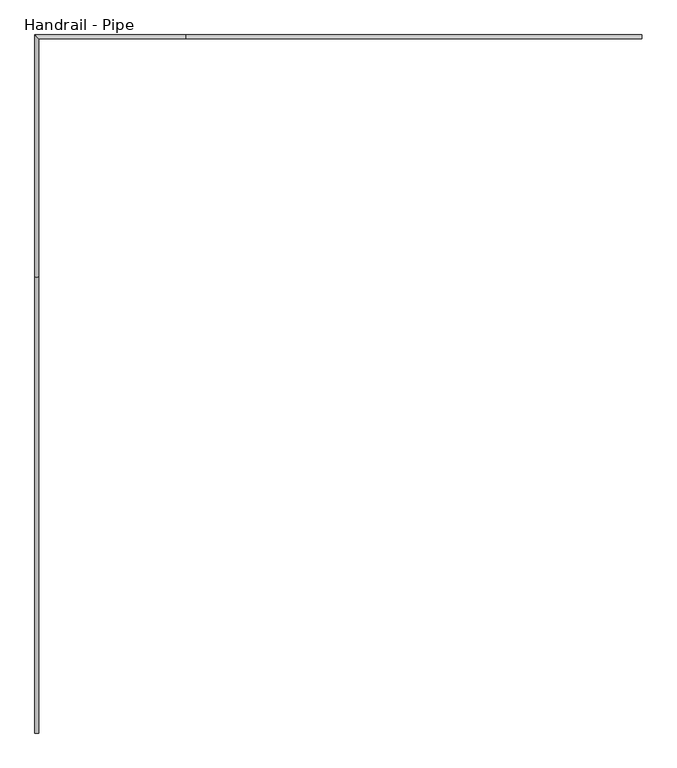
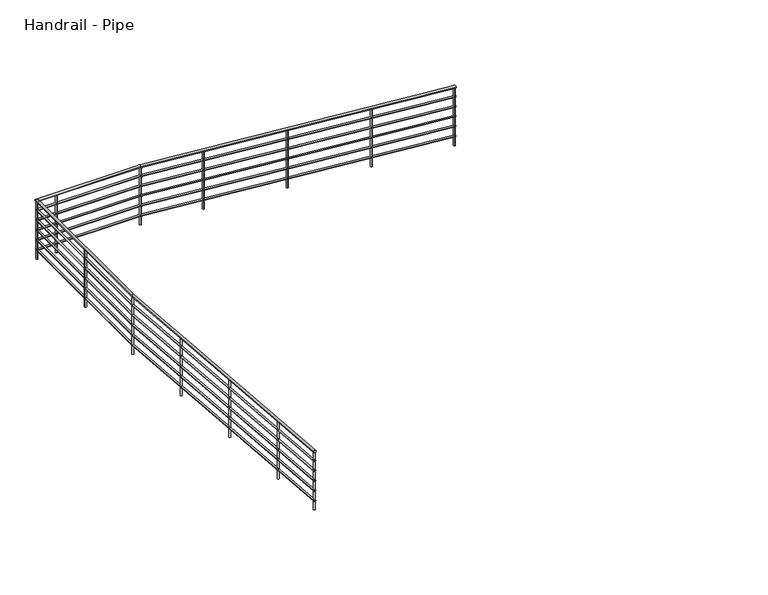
"""IFC4 building model written with IfcOpenShell, lengths in millimetres: railing geometry, Handrail - Pipe."""

from ifc_helpers import new_model, si_unit, point, frame, frame_2d, origin, place, context, project, spatial, circle_curve, ellipse_curve, trimmed, segment, composite_curve, outline, extrude, source, transform, mapped, element, save
from ifc_brep_helpers import plane_surface, cylinder_surface, advanced_brep


def handrail_pipe_67e9e0a0(model_context):
    return source(origin(), model_context, "Body", "SolidModel", [
        advanced_brep(
        [(17900.9421922, 24748.7984382, 133.2839686), (17900.9421922, 24710.6984382, 133.2839686), (13328.1498155, 24710.6984382, 514.35), (13328.1498155, 24748.7984382, 514.35), (11849.3921922, 24710.6984382, 514.35), (11811.2921922, 24748.7984382, 514.35), (11849.3921922, 22320.8938342, 514.35), (11811.2921922, 22320.8938342, 514.35), (11811.2921922, 17749.6862109, 895.2839686), (11849.3921922, 17749.6862109, 895.2839686)],
        [
            (0, 1, ellipse_curve(frame((17900.9421922, 24729.7484382, 133.2839686), z_axis=(1.0, 0.0, 0.0), x_axis=(0.0, 0.0, -1.0)), 19.1160314, 19.05)),
            (1, 0, ellipse_curve(frame((17900.9421922, 24729.7484382, 133.2839686), z_axis=(1.0, 0.0, 0.0), x_axis=(0.0, 0.0, -1.0)), 19.1160314, 19.05)),
            (1, 2),
            (2, 3, ellipse_curve(frame((13328.1498155, 24729.7484382, 514.35), z_axis=(0.9991360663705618, 0.0, -0.041558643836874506), x_axis=(-0.04155864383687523, 0.0, -0.9991360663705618)), 19.0664722, 19.05)),
            (3, 0),
            (3, 2, ellipse_curve(frame((13328.1498155, 24729.7484382, 514.35), z_axis=(0.9991360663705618, 0.0, -0.041558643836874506), x_axis=(-0.04155864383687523, 0.0, -0.9991360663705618)), 19.0664722, 19.05)),
            (2, 4),
            (4, 5, ellipse_curve(frame((11830.3421922, 24729.7484382, 514.35), z_axis=(0.7071067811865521, 0.7071067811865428, 0.0), x_axis=(0.7071067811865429, -0.7071067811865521, 0.0)), 26.9407684, 19.05)),
            (5, 3),
            (5, 4, ellipse_curve(frame((11830.3421922, 24729.7484382, 514.35), z_axis=(0.7071067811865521, 0.7071067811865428, 0.0), x_axis=(0.7071067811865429, -0.7071067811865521, 0.0)), 26.9407684, 19.05)),
            (4, 6),
            (6, 7, ellipse_curve(frame((11830.3421922, 22320.8938342, 514.35), z_axis=(0.0, 0.9991360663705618, -0.04155864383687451), x_axis=(0.0, 0.04155864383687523, 0.9991360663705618)), 19.0664722, 19.05)),
            (7, 5),
            (7, 6, ellipse_curve(frame((11830.3421922, 22320.8938342, 514.35), z_axis=(0.0, 0.9991360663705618, -0.04155864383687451), x_axis=(0.0, 0.04155864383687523, 0.9991360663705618)), 19.0664722, 19.05)),
            (8, 9, ellipse_curve(frame((11830.3421922, 17749.6862109, 895.2839686), z_axis=(0.0, -1.0, 0.0), x_axis=(0.0, 0.0, -1.0)), 19.1160314, 19.05)),
            (9, 8, ellipse_curve(frame((11830.3421922, 17749.6862109, 895.2839686), z_axis=(0.0, -1.0, 0.0), x_axis=(0.0, 0.0, -1.0)), 19.1160314, 19.05)),
            (6, 9),
            (8, 7),
        ],
        [
            plane_surface(frame((17900.9421922, 24729.7484382, 152.4), z_axis=(1.0, 0.0, 0.0), x_axis=(0.0, -1.0, 0.0))),
            cylinder_surface(frame((17899.3601758, 24729.7484382, 133.4158033), z_axis=(0.9965457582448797, 0.0, -0.08304547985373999), x_axis=(0.0, -1.0, 0.0)), 19.05),
            cylinder_surface(frame((13328.9421922, 24729.7484382, 514.35), z_axis=(1.0, 0.0, 0.0), x_axis=(0.0, -1.0, 0.0)), 19.05),
            cylinder_surface(frame((11830.3421922, 24729.7484382, 514.35), z_axis=(0.0, 1.0, 0.0), x_axis=(1.0, 0.0, 0.0)), 19.05),
            plane_surface(frame((11830.3421922, 17749.6862109, 914.4), z_axis=(0.0, -1.0, 0.0), x_axis=(0.0, 0.0, -1.0))),
            cylinder_surface(frame((11830.3421922, 22320.1041945, 514.4158033), z_axis=(0.0, 0.9965457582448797, -0.08304547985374), x_axis=(1.0, 0.0, 0.0)), 19.05),
        ],
        [
            (0, [[1, 2]]),
            (1, [[-2, 3, 4, 5]]),
            (1, [[-1, -5, 6, -3]]),
            (2, [[-4, 7, 8, 9]]),
            (2, [[-6, -9, 10, -7]]),
            (3, [[-8, 11, 12, 13]]),
            (3, [[-10, -13, 14, -11]]),
            (4, [[15, 16]]),
            (5, [[-12, 17, -15, 18]]),
            (5, [[-14, -18, -16, -17]]),
        ],
    ),
        advanced_brep(
        [(17900.9421922, 24742.4484382, -12.7440209), (17900.9421922, 24717.0484382, -12.7440209), (13328.413941, 24717.0484382, 368.3), (13328.413941, 24742.4484382, 368.3), (11843.0421922, 24717.0484382, 368.3), (11817.6421922, 24742.4484382, 368.3), (11843.0421922, 22321.1579598, 368.3), (11817.6421922, 22321.1579598, 368.3), (11817.6421922, 17749.6862109, 749.2559791), (11843.0421922, 17749.6862109, 749.2559791)],
        [
            (0, 1, ellipse_curve(frame((17900.9421922, 24729.7484382, -12.7440209), z_axis=(1.0, 0.0, 0.0), x_axis=(0.0, 0.0, -1.0)), 12.7440209, 12.7)),
            (1, 0, ellipse_curve(frame((17900.9421922, 24729.7484382, -12.7440209), z_axis=(1.0, 0.0, 0.0), x_axis=(0.0, 0.0, -1.0)), 12.7440209, 12.7)),
            (1, 2),
            (2, 3, ellipse_curve(frame((13328.413941, 24729.7484382, 368.3), z_axis=(0.9991360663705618, 0.0, -0.041558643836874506), x_axis=(-0.04155864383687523, 0.0, -0.9991360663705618)), 12.7109814, 12.7)),
            (3, 0),
            (3, 2, ellipse_curve(frame((13328.413941, 24729.7484382, 368.3), z_axis=(0.9991360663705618, 0.0, -0.041558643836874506), x_axis=(-0.04155864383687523, 0.0, -0.9991360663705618)), 12.7109814, 12.7)),
            (2, 4),
            (4, 5, ellipse_curve(frame((11830.3421922, 24729.7484382, 368.3), z_axis=(0.7071067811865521, 0.7071067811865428, 0.0), x_axis=(0.7071067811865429, -0.7071067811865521, 0.0)), 17.9605122, 12.7)),
            (5, 3),
            (5, 4, ellipse_curve(frame((11830.3421922, 24729.7484382, 368.3), z_axis=(0.7071067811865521, 0.7071067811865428, 0.0), x_axis=(0.7071067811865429, -0.7071067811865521, 0.0)), 17.9605122, 12.7)),
            (4, 6),
            (6, 7, ellipse_curve(frame((11830.3421922, 22321.1579598, 368.3), z_axis=(0.0, 0.9991360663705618, -0.04155864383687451), x_axis=(0.0, 0.04155864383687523, 0.9991360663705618)), 12.7109814, 12.7)),
            (7, 5),
            (7, 6, ellipse_curve(frame((11830.3421922, 22321.1579598, 368.3), z_axis=(0.0, 0.9991360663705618, -0.04155864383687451), x_axis=(0.0, 0.04155864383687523, 0.9991360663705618)), 12.7109814, 12.7)),
            (8, 9, ellipse_curve(frame((11830.3421922, 17749.6862109, 749.2559791), z_axis=(0.0, -1.0, 0.0), x_axis=(0.0, 0.0, -1.0)), 12.7440209, 12.7)),
            (9, 8, ellipse_curve(frame((11830.3421922, 17749.6862109, 749.2559791), z_axis=(0.0, -1.0, 0.0), x_axis=(0.0, 0.0, -1.0)), 12.7440209, 12.7)),
            (6, 9),
            (8, 7),
        ],
        [
            plane_surface(frame((17900.9421922, 24729.7484382, 0.0), z_axis=(1.0, 0.0, 0.0), x_axis=(0.0, -1.0, 0.0))),
            cylinder_surface(frame((17899.8875146, 24729.7484382, -12.6561311), z_axis=(0.9965457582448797, 0.0, -0.08304547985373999), x_axis=(0.0, -1.0, 0.0)), 12.7),
            cylinder_surface(frame((13328.9421922, 24729.7484382, 368.3), z_axis=(1.0, 0.0, 0.0), x_axis=(0.0, -1.0, 0.0)), 12.7),
            cylinder_surface(frame((11830.3421922, 24729.7484382, 368.3), z_axis=(0.0, 1.0, 0.0), x_axis=(1.0, 0.0, 0.0)), 12.7),
            plane_surface(frame((11830.3421922, 17749.6862109, 762.0), z_axis=(0.0, -1.0, 0.0), x_axis=(0.0, 0.0, -1.0))),
            cylinder_surface(frame((11830.3421922, 22320.6315333, 368.3438689), z_axis=(0.0, 0.9965457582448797, -0.08304547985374), x_axis=(1.0, 0.0, 0.0)), 12.7),
        ],
        [
            (0, [[1, 2]]),
            (1, [[-2, 3, 4, 5]]),
            (1, [[-1, -5, 6, -3]]),
            (2, [[-4, 7, 8, 9]]),
            (2, [[-6, -9, 10, -7]]),
            (3, [[-8, 11, 12, 13]]),
            (3, [[-10, -13, 14, -11]]),
            (4, [[15, 16]]),
            (5, [[-12, 17, -15, 18]]),
            (5, [[-14, -18, -16, -17]]),
        ],
    ),
        advanced_brep(
        [(17900.9421922, 24742.4484382, -165.1440209), (17900.9421922, 24717.0484382, -165.1440209), (13328.413941, 24717.0484382, 215.9), (13328.413941, 24742.4484382, 215.9), (11843.0421922, 24717.0484382, 215.9), (11817.6421922, 24742.4484382, 215.9), (11843.0421922, 22321.1579598, 215.9), (11817.6421922, 22321.1579598, 215.9), (11817.6421922, 17749.6862109, 596.8559791), (11843.0421922, 17749.6862109, 596.8559791)],
        [
            (0, 1, ellipse_curve(frame((17900.9421922, 24729.7484382, -165.1440209), z_axis=(1.0, 0.0, 0.0), x_axis=(0.0, 0.0, -1.0)), 12.7440209, 12.7)),
            (1, 0, ellipse_curve(frame((17900.9421922, 24729.7484382, -165.1440209), z_axis=(1.0, 0.0, 0.0), x_axis=(0.0, 0.0, -1.0)), 12.7440209, 12.7)),
            (1, 2),
            (2, 3, ellipse_curve(frame((13328.413941, 24729.7484382, 215.9), z_axis=(0.9991360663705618, 0.0, -0.041558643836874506), x_axis=(-0.04155864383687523, 0.0, -0.9991360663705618)), 12.7109814, 12.7)),
            (3, 0),
            (3, 2, ellipse_curve(frame((13328.413941, 24729.7484382, 215.9), z_axis=(0.9991360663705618, 0.0, -0.041558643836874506), x_axis=(-0.04155864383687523, 0.0, -0.9991360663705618)), 12.7109814, 12.7)),
            (2, 4),
            (4, 5, ellipse_curve(frame((11830.3421922, 24729.7484382, 215.9), z_axis=(0.7071067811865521, 0.7071067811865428, 0.0), x_axis=(0.7071067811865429, -0.7071067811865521, 0.0)), 17.9605122, 12.7)),
            (5, 3),
            (5, 4, ellipse_curve(frame((11830.3421922, 24729.7484382, 215.9), z_axis=(0.7071067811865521, 0.7071067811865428, 0.0), x_axis=(0.7071067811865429, -0.7071067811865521, 0.0)), 17.9605122, 12.7)),
            (4, 6),
            (6, 7, ellipse_curve(frame((11830.3421922, 22321.1579598, 215.9), z_axis=(0.0, 0.9991360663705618, -0.04155864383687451), x_axis=(0.0, 0.04155864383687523, 0.9991360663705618)), 12.7109814, 12.7)),
            (7, 5),
            (7, 6, ellipse_curve(frame((11830.3421922, 22321.1579598, 215.9), z_axis=(0.0, 0.9991360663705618, -0.04155864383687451), x_axis=(0.0, 0.04155864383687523, 0.9991360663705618)), 12.7109814, 12.7)),
            (8, 9, ellipse_curve(frame((11830.3421922, 17749.6862109, 596.8559791), z_axis=(0.0, -1.0, 0.0), x_axis=(0.0, 0.0, -1.0)), 12.7440209, 12.7)),
            (9, 8, ellipse_curve(frame((11830.3421922, 17749.6862109, 596.8559791), z_axis=(0.0, -1.0, 0.0), x_axis=(0.0, 0.0, -1.0)), 12.7440209, 12.7)),
            (6, 9),
            (8, 7),
        ],
        [
            plane_surface(frame((17900.9421922, 24729.7484382, -152.4), z_axis=(1.0, 0.0, 0.0), x_axis=(0.0, -1.0, 0.0))),
            cylinder_surface(frame((17899.8875146, 24729.7484382, -165.0561311), z_axis=(0.9965457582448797, 0.0, -0.08304547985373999), x_axis=(0.0, -1.0, 0.0)), 12.7),
            cylinder_surface(frame((13328.9421922, 24729.7484382, 215.9), z_axis=(1.0, 0.0, 0.0), x_axis=(0.0, -1.0, 0.0)), 12.7),
            cylinder_surface(frame((11830.3421922, 24729.7484382, 215.9), z_axis=(0.0, 1.0, 0.0), x_axis=(1.0, 0.0, 0.0)), 12.7),
            plane_surface(frame((11830.3421922, 17749.6862109, 609.6), z_axis=(0.0, -1.0, 0.0), x_axis=(0.0, 0.0, -1.0))),
            cylinder_surface(frame((11830.3421922, 22320.6315333, 215.9438689), z_axis=(0.0, 0.9965457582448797, -0.08304547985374), x_axis=(1.0, 0.0, 0.0)), 12.7),
        ],
        [
            (0, [[1, 2]]),
            (1, [[-2, 3, 4, 5]]),
            (1, [[-1, -5, 6, -3]]),
            (2, [[-4, 7, 8, 9]]),
            (2, [[-6, -9, 10, -7]]),
            (3, [[-8, 11, 12, 13]]),
            (3, [[-10, -13, 14, -11]]),
            (4, [[15, 16]]),
            (5, [[-12, 17, -15, 18]]),
            (5, [[-14, -18, -16, -17]]),
        ],
    ),
        advanced_brep(
        [(17900.9421922, 24742.4484382, -317.5440209), (17900.9421922, 24717.0484382, -317.5440209), (13328.413941, 24717.0484382, 63.5), (13328.413941, 24742.4484382, 63.5), (11843.0421922, 24717.0484382, 63.5), (11817.6421922, 24742.4484382, 63.5), (11843.0421922, 22321.1579598, 63.5), (11817.6421922, 22321.1579598, 63.5), (11817.6421922, 17749.6862109, 444.4559791), (11843.0421922, 17749.6862109, 444.4559791)],
        [
            (0, 1, ellipse_curve(frame((17900.9421922, 24729.7484382, -317.5440209), z_axis=(1.0, 0.0, 0.0), x_axis=(0.0, 0.0, -1.0)), 12.7440209, 12.7)),
            (1, 0, ellipse_curve(frame((17900.9421922, 24729.7484382, -317.5440209), z_axis=(1.0, 0.0, 0.0), x_axis=(0.0, 0.0, -1.0)), 12.7440209, 12.7)),
            (1, 2),
            (2, 3, ellipse_curve(frame((13328.413941, 24729.7484382, 63.5), z_axis=(0.9991360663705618, 0.0, -0.041558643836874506), x_axis=(-0.04155864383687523, 0.0, -0.9991360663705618)), 12.7109814, 12.7)),
            (3, 0),
            (3, 2, ellipse_curve(frame((13328.413941, 24729.7484382, 63.5), z_axis=(0.9991360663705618, 0.0, -0.041558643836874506), x_axis=(-0.04155864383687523, 0.0, -0.9991360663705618)), 12.7109814, 12.7)),
            (2, 4),
            (4, 5, ellipse_curve(frame((11830.3421922, 24729.7484382, 63.5), z_axis=(0.7071067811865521, 0.7071067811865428, 0.0), x_axis=(0.7071067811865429, -0.7071067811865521, 0.0)), 17.9605122, 12.7)),
            (5, 3),
            (5, 4, ellipse_curve(frame((11830.3421922, 24729.7484382, 63.5), z_axis=(0.7071067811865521, 0.7071067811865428, 0.0), x_axis=(0.7071067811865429, -0.7071067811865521, 0.0)), 17.9605122, 12.7)),
            (4, 6),
            (6, 7, ellipse_curve(frame((11830.3421922, 22321.1579598, 63.5), z_axis=(0.0, 0.9991360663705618, -0.04155864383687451), x_axis=(0.0, 0.04155864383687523, 0.9991360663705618)), 12.7109814, 12.7)),
            (7, 5),
            (7, 6, ellipse_curve(frame((11830.3421922, 22321.1579598, 63.5), z_axis=(0.0, 0.9991360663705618, -0.04155864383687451), x_axis=(0.0, 0.04155864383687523, 0.9991360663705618)), 12.7109814, 12.7)),
            (8, 9, ellipse_curve(frame((11830.3421922, 17749.6862109, 444.4559791), z_axis=(0.0, -1.0, 0.0), x_axis=(0.0, 0.0, -1.0)), 12.7440209, 12.7)),
            (9, 8, ellipse_curve(frame((11830.3421922, 17749.6862109, 444.4559791), z_axis=(0.0, -1.0, 0.0), x_axis=(0.0, 0.0, -1.0)), 12.7440209, 12.7)),
            (6, 9),
            (8, 7),
        ],
        [
            plane_surface(frame((17900.9421922, 24729.7484382, -304.8), z_axis=(1.0, 0.0, 0.0), x_axis=(0.0, -1.0, 0.0))),
            cylinder_surface(frame((17899.8875146, 24729.7484382, -317.4561311), z_axis=(0.9965457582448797, 0.0, -0.08304547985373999), x_axis=(0.0, -1.0, 0.0)), 12.7),
            cylinder_surface(frame((13328.9421922, 24729.7484382, 63.5), z_axis=(1.0, 0.0, 0.0), x_axis=(0.0, -1.0, 0.0)), 12.7),
            cylinder_surface(frame((11830.3421922, 24729.7484382, 63.5), z_axis=(0.0, 1.0, 0.0), x_axis=(1.0, 0.0, 0.0)), 12.7),
            plane_surface(frame((11830.3421922, 17749.6862109, 457.2), z_axis=(0.0, -1.0, 0.0), x_axis=(0.0, 0.0, -1.0))),
            cylinder_surface(frame((11830.3421922, 22320.6315333, 63.5438689), z_axis=(0.0, 0.9965457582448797, -0.08304547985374), x_axis=(1.0, 0.0, 0.0)), 12.7),
        ],
        [
            (0, [[1, 2]]),
            (1, [[-2, 3, 4, 5]]),
            (1, [[-1, -5, 6, -3]]),
            (2, [[-4, 7, 8, 9]]),
            (2, [[-6, -9, 10, -7]]),
            (3, [[-8, 11, 12, 13]]),
            (3, [[-10, -13, 14, -11]]),
            (4, [[15, 16]]),
            (5, [[-12, 17, -15, 18]]),
            (5, [[-14, -18, -16, -17]]),
        ],
    ),
        advanced_brep(
        [(17900.9421922, 24742.4484382, -469.9440209), (17900.9421922, 24717.0484382, -469.9440209), (13328.413941, 24717.0484382, -88.9), (13328.413941, 24742.4484382, -88.9), (11843.0421922, 24717.0484382, -88.9), (11817.6421922, 24742.4484382, -88.9), (11843.0421922, 22321.1579598, -88.9), (11817.6421922, 22321.1579598, -88.9), (11817.6421922, 17749.6862109, 292.0559791), (11843.0421922, 17749.6862109, 292.0559791)],
        [
            (0, 1, ellipse_curve(frame((17900.9421922, 24729.7484382, -469.9440209), z_axis=(1.0, 0.0, 0.0), x_axis=(0.0, 0.0, -1.0)), 12.7440209, 12.7)),
            (1, 0, ellipse_curve(frame((17900.9421922, 24729.7484382, -469.9440209), z_axis=(1.0, 0.0, 0.0), x_axis=(0.0, 0.0, -1.0)), 12.7440209, 12.7)),
            (1, 2),
            (2, 3, ellipse_curve(frame((13328.413941, 24729.7484382, -88.9), z_axis=(0.9991360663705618, 0.0, -0.041558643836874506), x_axis=(-0.04155864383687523, 0.0, -0.9991360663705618)), 12.7109814, 12.7)),
            (3, 0),
            (3, 2, ellipse_curve(frame((13328.413941, 24729.7484382, -88.9), z_axis=(0.9991360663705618, 0.0, -0.041558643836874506), x_axis=(-0.04155864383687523, 0.0, -0.9991360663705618)), 12.7109814, 12.7)),
            (2, 4),
            (4, 5, ellipse_curve(frame((11830.3421922, 24729.7484382, -88.9), z_axis=(0.7071067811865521, 0.7071067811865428, 0.0), x_axis=(0.7071067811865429, -0.7071067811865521, 0.0)), 17.9605122, 12.7)),
            (5, 3),
            (5, 4, ellipse_curve(frame((11830.3421922, 24729.7484382, -88.9), z_axis=(0.7071067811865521, 0.7071067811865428, 0.0), x_axis=(0.7071067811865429, -0.7071067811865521, 0.0)), 17.9605122, 12.7)),
            (4, 6),
            (6, 7, ellipse_curve(frame((11830.3421922, 22321.1579598, -88.9), z_axis=(0.0, 0.9991360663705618, -0.04155864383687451), x_axis=(0.0, 0.04155864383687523, 0.9991360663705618)), 12.7109814, 12.7)),
            (7, 5),
            (7, 6, ellipse_curve(frame((11830.3421922, 22321.1579598, -88.9), z_axis=(0.0, 0.9991360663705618, -0.04155864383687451), x_axis=(0.0, 0.04155864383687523, 0.9991360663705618)), 12.7109814, 12.7)),
            (8, 9, ellipse_curve(frame((11830.3421922, 17749.6862109, 292.0559791), z_axis=(0.0, -1.0, 0.0), x_axis=(0.0, 0.0, -1.0)), 12.7440209, 12.7)),
            (9, 8, ellipse_curve(frame((11830.3421922, 17749.6862109, 292.0559791), z_axis=(0.0, -1.0, 0.0), x_axis=(0.0, 0.0, -1.0)), 12.7440209, 12.7)),
            (6, 9),
            (8, 7),
        ],
        [
            plane_surface(frame((17900.9421922, 24729.7484382, -457.2), z_axis=(1.0, 0.0, 0.0), x_axis=(0.0, -1.0, 0.0))),
            cylinder_surface(frame((17899.8875146, 24729.7484382, -469.8561311), z_axis=(0.9965457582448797, 0.0, -0.08304547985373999), x_axis=(0.0, -1.0, 0.0)), 12.7),
            cylinder_surface(frame((13328.9421922, 24729.7484382, -88.9), z_axis=(1.0, 0.0, 0.0), x_axis=(0.0, -1.0, 0.0)), 12.7),
            cylinder_surface(frame((11830.3421922, 24729.7484382, -88.9), z_axis=(0.0, 1.0, 0.0), x_axis=(1.0, 0.0, 0.0)), 12.7),
            plane_surface(frame((11830.3421922, 17749.6862109, 304.8), z_axis=(0.0, -1.0, 0.0), x_axis=(0.0, 0.0, -1.0))),
            cylinder_surface(frame((11830.3421922, 22320.6315333, -88.8561311), z_axis=(0.0, 0.9965457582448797, -0.08304547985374), x_axis=(1.0, 0.0, 0.0)), 12.7),
        ],
        [
            (0, [[1, 2]]),
            (1, [[-2, 3, 4, 5]]),
            (1, [[-1, -5, 6, -3]]),
            (2, [[-4, 7, 8, 9]]),
            (2, [[-6, -9, 10, -7]]),
            (3, [[-8, 11, 12, 13]]),
            (3, [[-10, -13, 14, -11]]),
            (4, [[15, 16]]),
            (5, [[-12, 17, -15, 18]]),
            (5, [[-14, -18, -16, -17]]),
        ],
    ),
        advanced_brep(
        [(17900.9421922, 24742.4484382, -622.3440209), (17900.9421922, 24717.0484382, -622.3440209), (13328.413941, 24717.0484382, -241.3), (13328.413941, 24742.4484382, -241.3), (11843.0421922, 24717.0484382, -241.3), (11817.6421922, 24742.4484382, -241.3), (11843.0421922, 22321.1579598, -241.3), (11817.6421922, 22321.1579598, -241.3), (11817.6421922, 17749.6862109, 139.6559791), (11843.0421922, 17749.6862109, 139.6559791)],
        [
            (0, 1, ellipse_curve(frame((17900.9421922, 24729.7484382, -622.3440209), z_axis=(1.0, 0.0, 0.0), x_axis=(0.0, 0.0, -1.0)), 12.7440209, 12.7)),
            (1, 0, ellipse_curve(frame((17900.9421922, 24729.7484382, -622.3440209), z_axis=(1.0, 0.0, 0.0), x_axis=(0.0, 0.0, -1.0)), 12.7440209, 12.7)),
            (1, 2),
            (2, 3, ellipse_curve(frame((13328.413941, 24729.7484382, -241.3), z_axis=(0.9991360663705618, 0.0, -0.041558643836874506), x_axis=(-0.04155864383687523, 0.0, -0.9991360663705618)), 12.7109814, 12.7)),
            (3, 0),
            (3, 2, ellipse_curve(frame((13328.413941, 24729.7484382, -241.3), z_axis=(0.9991360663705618, 0.0, -0.041558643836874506), x_axis=(-0.04155864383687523, 0.0, -0.9991360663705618)), 12.7109814, 12.7)),
            (2, 4),
            (4, 5, ellipse_curve(frame((11830.3421922, 24729.7484382, -241.3), z_axis=(0.7071067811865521, 0.7071067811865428, 0.0), x_axis=(0.7071067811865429, -0.7071067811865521, 0.0)), 17.9605122, 12.7)),
            (5, 3),
            (5, 4, ellipse_curve(frame((11830.3421922, 24729.7484382, -241.3), z_axis=(0.7071067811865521, 0.7071067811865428, 0.0), x_axis=(0.7071067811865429, -0.7071067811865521, 0.0)), 17.9605122, 12.7)),
            (4, 6),
            (6, 7, ellipse_curve(frame((11830.3421922, 22321.1579598, -241.3), z_axis=(0.0, 0.9991360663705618, -0.04155864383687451), x_axis=(0.0, 0.04155864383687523, 0.9991360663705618)), 12.7109814, 12.7)),
            (7, 5),
            (7, 6, ellipse_curve(frame((11830.3421922, 22321.1579598, -241.3), z_axis=(0.0, 0.9991360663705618, -0.04155864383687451), x_axis=(0.0, 0.04155864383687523, 0.9991360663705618)), 12.7109814, 12.7)),
            (8, 9, ellipse_curve(frame((11830.3421922, 17749.6862109, 139.6559791), z_axis=(0.0, -1.0, 0.0), x_axis=(0.0, 0.0, -1.0)), 12.7440209, 12.7)),
            (9, 8, ellipse_curve(frame((11830.3421922, 17749.6862109, 139.6559791), z_axis=(0.0, -1.0, 0.0), x_axis=(0.0, 0.0, -1.0)), 12.7440209, 12.7)),
            (6, 9),
            (8, 7),
        ],
        [
            plane_surface(frame((17900.9421922, 24729.7484382, -609.6), z_axis=(1.0, 0.0, 0.0), x_axis=(0.0, -1.0, 0.0))),
            cylinder_surface(frame((17899.8875146, 24729.7484382, -622.2561311), z_axis=(0.9965457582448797, 0.0, -0.08304547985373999), x_axis=(0.0, -1.0, 0.0)), 12.7),
            cylinder_surface(frame((13328.9421922, 24729.7484382, -241.3), z_axis=(1.0, 0.0, 0.0), x_axis=(0.0, -1.0, 0.0)), 12.7),
            cylinder_surface(frame((11830.3421922, 24729.7484382, -241.3), z_axis=(0.0, 1.0, 0.0), x_axis=(1.0, 0.0, 0.0)), 12.7),
            plane_surface(frame((11830.3421922, 17749.6862109, 152.4), z_axis=(0.0, -1.0, 0.0), x_axis=(0.0, 0.0, -1.0))),
            cylinder_surface(frame((11830.3421922, 22320.6315333, -241.2561311), z_axis=(0.0, 0.9965457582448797, -0.08304547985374), x_axis=(1.0, 0.0, 0.0)), 12.7),
        ],
        [
            (0, [[1, 2]]),
            (1, [[-2, 3, 4, 5]]),
            (1, [[-1, -5, 6, -3]]),
            (2, [[-4, 7, 8, 9]]),
            (2, [[-6, -9, 10, -7]]),
            (3, [[-8, 11, 12, 13]]),
            (3, [[-10, -13, 14, -11]]),
            (4, [[15, 16]]),
            (5, [[-12, 17, -15, 18]]),
            (5, [[-14, -18, -16, -17]]),
        ],
    ),
        advanced_brep(
        [(11843.0421922, 18664.0862109, 799.9679372), (11817.6421922, 18664.0862109, 799.9679372), (11817.6421922, 18664.0862109, -76.2), (11843.0421922, 18664.0862109, -76.2)],
        [
            (0, 1, ellipse_curve(frame((11830.3421922, 18664.0862109, 799.9679372), z_axis=(0.0, -0.08304547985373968, -0.9965457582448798), x_axis=(0.0, -0.9965457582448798, 0.08304547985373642)), 12.7440209, 12.7)),
            (1, 2),
            (2, 3, ellipse_curve(frame((11830.3421922, 18664.0862109, -76.2), z_axis=(0.0, 0.08304547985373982, 0.9965457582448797), x_axis=(0.0, -0.9965457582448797, 0.08304547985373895)), 12.7440209, 12.7)),
            (3, 0),
            (3, 2, ellipse_curve(frame((11830.3421922, 18664.0862109, -76.2), z_axis=(0.0, 0.08304547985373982, 0.9965457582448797), x_axis=(0.0, -0.9965457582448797, 0.08304547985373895)), 12.7440209, 12.7)),
            (1, 0, ellipse_curve(frame((11830.3421922, 18664.0862109, 799.9679372), z_axis=(0.0, -0.08304547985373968, -0.9965457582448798), x_axis=(0.0, -0.9965457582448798, 0.08304547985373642)), 12.7440209, 12.7)),
        ],
        [
            cylinder_surface(frame((11830.3421922, 18664.0862109, -304.8), z_axis=(0.0, 0.0, 1.0), x_axis=(-1.0, 0.0, 0.0)), 12.7),
            plane_surface(frame((11804.9421922, 18638.6862109, 802.0846039), z_axis=(0.0, 0.08304547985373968, 0.9965457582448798), x_axis=(1.0, 0.0, 0.0))),
            plane_surface(frame((11804.9421922, 18689.4862109, -78.3166667), z_axis=(0.0, -0.08304547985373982, -0.9965457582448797), x_axis=(1.0, 0.0, 0.0))),
        ],
        [
            (0, [[1, 2, 3, 4]]),
            (0, [[5, -2, 6, -4]]),
            (1, [[-6, -1]]),
            (2, [[-5, -3]]),
        ],
    ),
        advanced_brep(
        [(11843.0421922, 19883.2862109, 698.3679372), (11817.6421922, 19883.2862109, 698.3679372), (11817.6421922, 19883.2862109, -177.8), (11843.0421922, 19883.2862109, -177.8)],
        [
            (0, 1, ellipse_curve(frame((11830.3421922, 19883.2862109, 698.3679372), z_axis=(0.0, -0.08304547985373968, -0.9965457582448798), x_axis=(0.0, -0.9965457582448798, 0.08304547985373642)), 12.7440209, 12.7)),
            (1, 2),
            (2, 3, ellipse_curve(frame((11830.3421922, 19883.2862109, -177.8), z_axis=(0.0, 0.08304547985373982, 0.9965457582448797), x_axis=(0.0, -0.9965457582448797, 0.08304547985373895)), 12.7440209, 12.7)),
            (3, 0),
            (3, 2, ellipse_curve(frame((11830.3421922, 19883.2862109, -177.8), z_axis=(0.0, 0.08304547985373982, 0.9965457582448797), x_axis=(0.0, -0.9965457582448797, 0.08304547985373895)), 12.7440209, 12.7)),
            (1, 0, ellipse_curve(frame((11830.3421922, 19883.2862109, 698.3679372), z_axis=(0.0, -0.08304547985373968, -0.9965457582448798), x_axis=(0.0, -0.9965457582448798, 0.08304547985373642)), 12.7440209, 12.7)),
        ],
        [
            cylinder_surface(frame((11830.3421922, 19883.2862109, -406.4), z_axis=(0.0, 0.0, 1.0), x_axis=(-1.0, 0.0, 0.0)), 12.7),
            plane_surface(frame((11804.9421922, 19857.8862109, 700.4846039), z_axis=(0.0, 0.08304547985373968, 0.9965457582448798), x_axis=(1.0, 0.0, 0.0))),
            plane_surface(frame((11804.9421922, 19908.6862109, -179.9166667), z_axis=(0.0, -0.08304547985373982, -0.9965457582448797), x_axis=(1.0, 0.0, 0.0))),
        ],
        [
            (0, [[1, 2, 3, 4]]),
            (0, [[5, -2, 6, -4]]),
            (1, [[-6, -1]]),
            (2, [[-5, -3]]),
        ],
    ),
        advanced_brep(
        [(11843.0421922, 21102.4862109, 596.7679372), (11817.6421922, 21102.4862109, 596.7679372), (11817.6421922, 21102.4862109, -279.4), (11843.0421922, 21102.4862109, -279.4)],
        [
            (0, 1, ellipse_curve(frame((11830.3421922, 21102.4862109, 596.7679372), z_axis=(0.0, -0.08304547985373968, -0.9965457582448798), x_axis=(0.0, -0.9965457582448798, 0.08304547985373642)), 12.7440209, 12.7)),
            (1, 2),
            (2, 3, ellipse_curve(frame((11830.3421922, 21102.4862109, -279.4), z_axis=(0.0, 0.08304547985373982, 0.9965457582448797), x_axis=(0.0, -0.9965457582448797, 0.08304547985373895)), 12.7440209, 12.7)),
            (3, 0),
            (3, 2, ellipse_curve(frame((11830.3421922, 21102.4862109, -279.4), z_axis=(0.0, 0.08304547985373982, 0.9965457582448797), x_axis=(0.0, -0.9965457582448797, 0.08304547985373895)), 12.7440209, 12.7)),
            (1, 0, ellipse_curve(frame((11830.3421922, 21102.4862109, 596.7679372), z_axis=(0.0, -0.08304547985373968, -0.9965457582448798), x_axis=(0.0, -0.9965457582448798, 0.08304547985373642)), 12.7440209, 12.7)),
        ],
        [
            cylinder_surface(frame((11830.3421922, 21102.4862109, -508.0), z_axis=(0.0, 0.0, 1.0), x_axis=(-1.0, 0.0, 0.0)), 12.7),
            plane_surface(frame((11804.9421922, 21077.0862109, 598.8846039), z_axis=(0.0, 0.08304547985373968, 0.9965457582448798), x_axis=(1.0, 0.0, 0.0))),
            plane_surface(frame((11804.9421922, 21127.8862109, -281.5166667), z_axis=(0.0, -0.08304547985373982, -0.9965457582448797), x_axis=(1.0, 0.0, 0.0))),
        ],
        [
            (0, [[1, 2, 3, 4]]),
            (0, [[5, -2, 6, -4]]),
            (1, [[-6, -1]]),
            (2, [[-5, -3]]),
        ],
    ),
        extrude(outline(composite_curve([segment(trimmed(circle_curve(frame_2d((11830.3421922, 23510.5484382)), 12.7), [point((11817.6421922, 23510.5484382))], [point((11843.0421922, 23510.5484382))], False, "CARTESIAN"), True, "CONTINUOUS"), segment(trimmed(circle_curve(frame_2d((11830.3421922, 23510.5484382)), 12.7), [point((11843.0421922, 23510.5484382))], [point((11817.6421922, 23510.5484382))], False, "CARTESIAN"), True, "CONTINUOUS")], self_intersect=False)), frame((0.0, 0.0, -381.0), z_axis=(0.0, 0.0, 1.0), x_axis=(1.0, 0.0, 0.0)), (0.0, 0.0, 1.0), 876.3),
        extrude(outline(composite_curve([segment(trimmed(circle_curve(frame_2d((12109.7421922, 24729.7484382)), 12.7), [point((12109.7421922, 24742.4484382))], [point((12109.7421922, 24717.0484382))], False, "CARTESIAN"), True, "CONTINUOUS"), segment(trimmed(circle_curve(frame_2d((12109.7421922, 24729.7484382)), 12.7), [point((12109.7421922, 24717.0484382))], [point((12109.7421922, 24742.4484382))], False, "CARTESIAN"), True, "CONTINUOUS")], self_intersect=False)), frame((0.0, 0.0, -381.0), z_axis=(0.0, 0.0, 1.0), x_axis=(1.0, 0.0, 0.0)), (0.0, 0.0, 1.0), 876.3),
        advanced_brep(
        [(14243.3421922, 24717.0484382, 418.9679372), (14243.3421922, 24742.4484382, 418.9679372), (14243.3421922, 24742.4484382, -457.2), (14243.3421922, 24717.0484382, -457.2)],
        [
            (0, 1, ellipse_curve(frame((14243.3421922, 24729.7484382, 418.9679372), z_axis=(-0.08304547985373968, 0.0, -0.9965457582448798), x_axis=(-0.9965457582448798, 0.0, 0.08304547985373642)), 12.7440209, 12.7)),
            (1, 2),
            (2, 3, ellipse_curve(frame((14243.3421922, 24729.7484382, -457.2), z_axis=(0.08304547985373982, 0.0, 0.9965457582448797), x_axis=(-0.9965457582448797, 0.0, 0.08304547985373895)), 12.7440209, 12.7)),
            (3, 0),
            (3, 2, ellipse_curve(frame((14243.3421922, 24729.7484382, -457.2), z_axis=(0.08304547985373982, 0.0, 0.9965457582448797), x_axis=(-0.9965457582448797, 0.0, 0.08304547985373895)), 12.7440209, 12.7)),
            (1, 0, ellipse_curve(frame((14243.3421922, 24729.7484382, 418.9679372), z_axis=(-0.08304547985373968, 0.0, -0.9965457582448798), x_axis=(-0.9965457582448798, 0.0, 0.08304547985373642)), 12.7440209, 12.7)),
        ],
        [
            cylinder_surface(frame((14243.3421922, 24729.7484382, -685.8), z_axis=(0.0, 0.0, 1.0), x_axis=(0.0, 1.0, 0.0)), 12.7),
            plane_surface(frame((14217.9421922, 24755.1484382, 421.0846039), z_axis=(0.08304547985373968, 0.0, 0.9965457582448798), x_axis=(0.0, -1.0, 0.0))),
            plane_surface(frame((14268.7421922, 24755.1484382, -459.3166667), z_axis=(-0.08304547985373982, 0.0, -0.9965457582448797), x_axis=(0.0, -1.0, 0.0))),
        ],
        [
            (0, [[1, 2, 3, 4]]),
            (0, [[5, -2, 6, -4]]),
            (1, [[-6, -1]]),
            (2, [[-5, -3]]),
        ],
    ),
        advanced_brep(
        [(15462.5421922, 24717.0484382, 317.3679372), (15462.5421922, 24742.4484382, 317.3679372), (15462.5421922, 24742.4484382, -558.8), (15462.5421922, 24717.0484382, -558.8)],
        [
            (0, 1, ellipse_curve(frame((15462.5421922, 24729.7484382, 317.3679372), z_axis=(-0.08304547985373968, 0.0, -0.9965457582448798), x_axis=(-0.9965457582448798, 0.0, 0.08304547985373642)), 12.7440209, 12.7)),
            (1, 2),
            (2, 3, ellipse_curve(frame((15462.5421922, 24729.7484382, -558.8), z_axis=(0.08304547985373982, 0.0, 0.9965457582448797), x_axis=(-0.9965457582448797, 0.0, 0.08304547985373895)), 12.7440209, 12.7)),
            (3, 0),
            (3, 2, ellipse_curve(frame((15462.5421922, 24729.7484382, -558.8), z_axis=(0.08304547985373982, 0.0, 0.9965457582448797), x_axis=(-0.9965457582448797, 0.0, 0.08304547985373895)), 12.7440209, 12.7)),
            (1, 0, ellipse_curve(frame((15462.5421922, 24729.7484382, 317.3679372), z_axis=(-0.08304547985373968, 0.0, -0.9965457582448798), x_axis=(-0.9965457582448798, 0.0, 0.08304547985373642)), 12.7440209, 12.7)),
        ],
        [
            cylinder_surface(frame((15462.5421922, 24729.7484382, -787.4), z_axis=(0.0, 0.0, 1.0), x_axis=(0.0, 1.0, 0.0)), 12.7),
            plane_surface(frame((15437.1421922, 24755.1484382, 319.4846039), z_axis=(0.08304547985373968, 0.0, 0.9965457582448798), x_axis=(0.0, -1.0, 0.0))),
            plane_surface(frame((15487.9421922, 24755.1484382, -560.9166667), z_axis=(-0.08304547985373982, 0.0, -0.9965457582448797), x_axis=(0.0, -1.0, 0.0))),
        ],
        [
            (0, [[1, 2, 3, 4]]),
            (0, [[5, -2, 6, -4]]),
            (1, [[-6, -1]]),
            (2, [[-5, -3]]),
        ],
    ),
        advanced_brep(
        [(16681.7421922, 24717.0484382, 215.7679372), (16681.7421922, 24742.4484382, 215.7679372), (16681.7421922, 24742.4484382, -660.4), (16681.7421922, 24717.0484382, -660.4)],
        [
            (0, 1, ellipse_curve(frame((16681.7421922, 24729.7484382, 215.7679372), z_axis=(-0.08304547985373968, 0.0, -0.9965457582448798), x_axis=(-0.9965457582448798, 0.0, 0.08304547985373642)), 12.7440209, 12.7)),
            (1, 2),
            (2, 3, ellipse_curve(frame((16681.7421922, 24729.7484382, -660.4), z_axis=(0.08304547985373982, 0.0, 0.9965457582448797), x_axis=(-0.9965457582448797, 0.0, 0.08304547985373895)), 12.7440209, 12.7)),
            (3, 0),
            (3, 2, ellipse_curve(frame((16681.7421922, 24729.7484382, -660.4), z_axis=(0.08304547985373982, 0.0, 0.9965457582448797), x_axis=(-0.9965457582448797, 0.0, 0.08304547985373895)), 12.7440209, 12.7)),
            (1, 0, ellipse_curve(frame((16681.7421922, 24729.7484382, 215.7679372), z_axis=(-0.08304547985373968, 0.0, -0.9965457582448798), x_axis=(-0.9965457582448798, 0.0, 0.08304547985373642)), 12.7440209, 12.7)),
        ],
        [
            cylinder_surface(frame((16681.7421922, 24729.7484382, -889.0), z_axis=(0.0, 0.0, 1.0), x_axis=(0.0, 1.0, 0.0)), 12.7),
            plane_surface(frame((16656.3421922, 24755.1484382, 217.8846039), z_axis=(0.08304547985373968, 0.0, 0.9965457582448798), x_axis=(0.0, -1.0, 0.0))),
            plane_surface(frame((16707.1421922, 24755.1484382, -662.5166667), z_axis=(-0.08304547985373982, 0.0, -0.9965457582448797), x_axis=(0.0, -1.0, 0.0))),
        ],
        [
            (0, [[1, 2, 3, 4]]),
            (0, [[5, -2, 6, -4]]),
            (1, [[-6, -1]]),
            (2, [[-5, -3]]),
        ],
    ),
        extrude(outline(composite_curve([segment(trimmed(circle_curve(frame_2d((11830.3421922, 22321.6862109)), 12.7), [point((11817.6421922, 22321.6862109))], [point((11843.0421922, 22321.6862109))], False, "CARTESIAN"), True, "CONTINUOUS"), segment(trimmed(circle_curve(frame_2d((11830.3421922, 22321.6862109)), 12.7), [point((11843.0421922, 22321.6862109))], [point((11817.6421922, 22321.6862109))], False, "CARTESIAN"), True, "CONTINUOUS")], self_intersect=False)), frame((0.0, 0.0, -381.0), z_axis=(0.0, 0.0, 1.0), x_axis=(1.0, 0.0, 0.0)), (0.0, 0.0, 1.0), 876.3),
        extrude(outline(composite_curve([segment(trimmed(circle_curve(frame_2d((11830.3421922, 24729.7484382)), 12.7), [point((11830.3421922, 24742.4484382))], [point((11830.3421922, 24717.0484382))], False, "CARTESIAN"), True, "CONTINUOUS"), segment(trimmed(circle_curve(frame_2d((11830.3421922, 24729.7484382)), 12.7), [point((11830.3421922, 24717.0484382))], [point((11830.3421922, 24742.4484382))], False, "CARTESIAN"), True, "CONTINUOUS")], self_intersect=False)), frame((0.0, 0.0, -381.0), z_axis=(0.0, 0.0, 1.0), x_axis=(1.0, 0.0, 0.0)), (0.0, 0.0, 1.0), 876.3),
        advanced_brep(
        [(13328.9421922, 24717.0484382, 495.1679372), (13328.9421922, 24742.4484382, 495.1679372), (13328.9421922, 24742.4484382, -381.0), (13328.9421922, 24717.0484382, -381.0)],
        [
            (0, 1, ellipse_curve(frame((13328.9421922, 24729.7484382, 495.1679372), z_axis=(-0.08304547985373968, 0.0, -0.9965457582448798), x_axis=(-0.9965457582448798, 0.0, 0.08304547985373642)), 12.7440209, 12.7)),
            (1, 2),
            (2, 3, ellipse_curve(frame((13328.9421922, 24729.7484382, -381.0), z_axis=(0.08304547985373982, 0.0, 0.9965457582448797), x_axis=(-0.9965457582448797, 0.0, 0.08304547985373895)), 12.7440209, 12.7)),
            (3, 0),
            (3, 2, ellipse_curve(frame((13328.9421922, 24729.7484382, -381.0), z_axis=(0.08304547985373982, 0.0, 0.9965457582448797), x_axis=(-0.9965457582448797, 0.0, 0.08304547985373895)), 12.7440209, 12.7)),
            (1, 0, ellipse_curve(frame((13328.9421922, 24729.7484382, 495.1679372), z_axis=(-0.08304547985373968, 0.0, -0.9965457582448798), x_axis=(-0.9965457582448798, 0.0, 0.08304547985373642)), 12.7440209, 12.7)),
        ],
        [
            cylinder_surface(frame((13328.9421922, 24729.7484382, -609.6), z_axis=(0.0, 0.0, 1.0), x_axis=(0.0, 1.0, 0.0)), 12.7),
            plane_surface(frame((13303.5421922, 24755.1484382, 497.2846039), z_axis=(0.08304547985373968, 0.0, 0.9965457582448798), x_axis=(0.0, -1.0, 0.0))),
            plane_surface(frame((13354.3421922, 24755.1484382, -383.1166667), z_axis=(-0.08304547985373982, 0.0, -0.9965457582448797), x_axis=(0.0, -1.0, 0.0))),
        ],
        [
            (0, [[1, 2, 3, 4]]),
            (0, [[5, -2, 6, -4]]),
            (1, [[-6, -1]]),
            (2, [[-5, -3]]),
        ],
    ),
        advanced_brep(
        [(11843.0421922, 17762.3862109, 875.1096039), (11817.6421922, 17762.3862109, 875.1096039), (11817.6421922, 17762.3862109, -1.0583333), (11843.0421922, 17762.3862109, -1.0583333)],
        [
            (0, 1, ellipse_curve(frame((11830.3421922, 17762.3862109, 875.1096039), z_axis=(0.0, -0.08304547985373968, -0.9965457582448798), x_axis=(0.0, -0.9965457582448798, 0.08304547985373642)), 12.7440209, 12.7)),
            (1, 2),
            (2, 3, ellipse_curve(frame((11830.3421922, 17762.3862109, -1.0583333), z_axis=(0.0, 0.08304547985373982, 0.9965457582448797), x_axis=(0.0, -0.9965457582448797, 0.08304547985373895)), 12.7440209, 12.7)),
            (3, 0),
            (3, 2, ellipse_curve(frame((11830.3421922, 17762.3862109, -1.0583333), z_axis=(0.0, 0.08304547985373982, 0.9965457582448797), x_axis=(0.0, -0.9965457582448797, 0.08304547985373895)), 12.7440209, 12.7)),
            (1, 0, ellipse_curve(frame((11830.3421922, 17762.3862109, 875.1096039), z_axis=(0.0, -0.08304547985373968, -0.9965457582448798), x_axis=(0.0, -0.9965457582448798, 0.08304547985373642)), 12.7440209, 12.7)),
        ],
        [
            cylinder_surface(frame((11830.3421922, 17762.3862109, -229.6583333), z_axis=(0.0, 0.0, 1.0), x_axis=(-1.0, 0.0, 0.0)), 12.7),
            plane_surface(frame((11804.9421922, 17736.9862109, 877.2262705), z_axis=(0.0, 0.08304547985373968, 0.9965457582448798), x_axis=(1.0, 0.0, 0.0))),
            plane_surface(frame((11804.9421922, 17787.7862109, -3.175), z_axis=(0.0, -0.08304547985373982, -0.9965457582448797), x_axis=(1.0, 0.0, 0.0))),
        ],
        [
            (0, [[1, 2, 3, 4]]),
            (0, [[5, -2, 6, -4]]),
            (1, [[-6, -1]]),
            (2, [[-5, -3]]),
        ],
    ),
        advanced_brep(
        [(17888.2421922, 24717.0484382, 115.2262705), (17888.2421922, 24742.4484382, 115.2262705), (17888.2421922, 24742.4484382, -760.9416667), (17888.2421922, 24717.0484382, -760.9416667)],
        [
            (0, 1, ellipse_curve(frame((17888.2421922, 24729.7484382, 115.2262705), z_axis=(-0.08304547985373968, 0.0, -0.9965457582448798), x_axis=(-0.9965457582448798, 0.0, 0.08304547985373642)), 12.7440209, 12.7)),
            (1, 2),
            (2, 3, ellipse_curve(frame((17888.2421922, 24729.7484382, -760.9416667), z_axis=(0.08304547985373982, 0.0, 0.9965457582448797), x_axis=(-0.9965457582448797, 0.0, 0.08304547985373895)), 12.7440209, 12.7)),
            (3, 0),
            (3, 2, ellipse_curve(frame((17888.2421922, 24729.7484382, -760.9416667), z_axis=(0.08304547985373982, 0.0, 0.9965457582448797), x_axis=(-0.9965457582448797, 0.0, 0.08304547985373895)), 12.7440209, 12.7)),
            (1, 0, ellipse_curve(frame((17888.2421922, 24729.7484382, 115.2262705), z_axis=(-0.08304547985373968, 0.0, -0.9965457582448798), x_axis=(-0.9965457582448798, 0.0, 0.08304547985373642)), 12.7440209, 12.7)),
        ],
        [
            cylinder_surface(frame((17888.2421922, 24729.7484382, -989.5416667), z_axis=(0.0, 0.0, 1.0), x_axis=(0.0, 1.0, 0.0)), 12.7),
            plane_surface(frame((17862.8421922, 24755.1484382, 117.3429372), z_axis=(0.08304547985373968, 0.0, 0.9965457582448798), x_axis=(0.0, -1.0, 0.0))),
            plane_surface(frame((17913.6421922, 24755.1484382, -763.0583333), z_axis=(-0.08304547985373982, 0.0, -0.9965457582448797), x_axis=(0.0, -1.0, 0.0))),
        ],
        [
            (0, [[1, 2, 3, 4]]),
            (0, [[5, -2, 6, -4]]),
            (1, [[-6, -1]]),
            (2, [[-5, -3]]),
        ],
    ),
    ])


if __name__ == "__main__":
    model = new_model("IFC4")
    model_context = context("Model", 3, world=origin())
    ifc_project = project(units=[si_unit("LENGTHUNIT", "METRE", prefix="MILLI")], contexts=[model_context])
    site = spatial("IfcSite", under=ifc_project)
    building = spatial("IfcBuilding", under=site)
    placement = place(None, origin())
    handrail_pipe_shape = handrail_pipe_67e9e0a0(model_context)
    element("IfcRailing", 1, ObjectType="Handrail - Pipe", at=placement, inside=building, context=model_context, shape_type="MappedRepresentation", body=[
        mapped(handrail_pipe_shape, transform((0.0, 0.0, 0.0), x_axis=(1.0, 0.0, 0.0), y_axis=(0.0, 1.0, 0.0), z_axis=(0.0, 0.0, 1.0))),
    ])
    save(model, "model.ifc")
